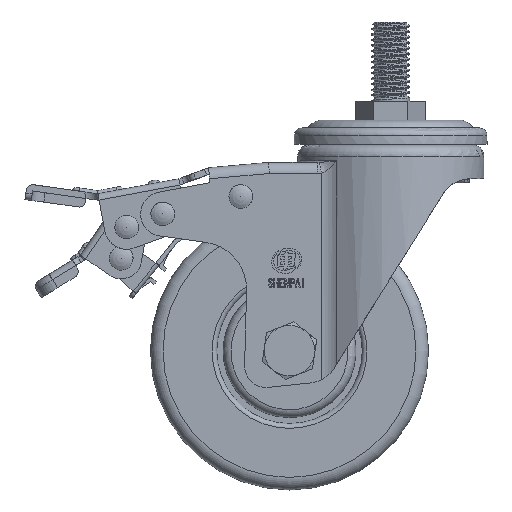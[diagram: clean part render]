
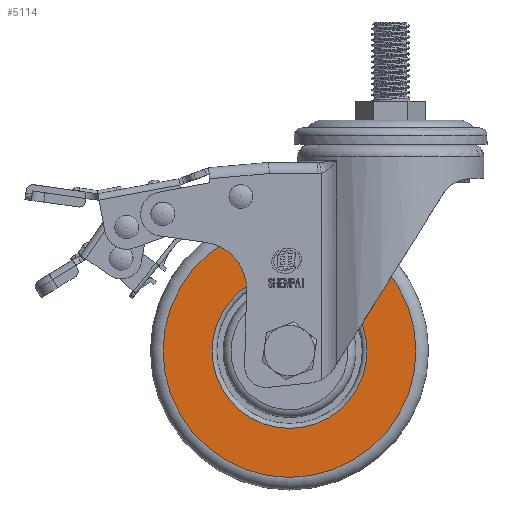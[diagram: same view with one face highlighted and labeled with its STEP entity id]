
A CAD part, front view. The second image highlights one B-rep face of the part: STEP entity #5114.
In plain terms, the highlighted planar face has unit normal (0, -1, -0.003).
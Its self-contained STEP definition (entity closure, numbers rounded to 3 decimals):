
#4064=FACE_BOUND('',#7739,.T.);
#4065=FACE_BOUND('',#7740,.T.);
#5114=ADVANCED_FACE('',(#4064,#4065),#5725,.F.);
#5725=PLANE('',#20013);
#7739=EDGE_LOOP('',(#12622));
#7740=EDGE_LOOP('',(#12623));
#12622=ORIENTED_EDGE('',*,*,#17427,.T.);
#12623=ORIENTED_EDGE('',*,*,#17431,.T.);
#14854=VERTEX_POINT('',#39930);
#14858=VERTEX_POINT('',#39940);
#17427=EDGE_CURVE('',#14854,#14854,#18329,.T.);
#17431=EDGE_CURVE('',#14858,#14858,#18333,.T.);
#18329=CIRCLE('',#19999,24.5);
#18333=CIRCLE('',#20005,40.);
#19999=AXIS2_PLACEMENT_3D('',#39929,#24486,#24487);
#20005=AXIS2_PLACEMENT_3D('',#39939,#24498,#24499);
#20013=AXIS2_PLACEMENT_3D('',#39950,#24514,#24515);
#24486=DIRECTION('',(0.,1.,0.003));
#24487=DIRECTION('',(0.,-0.003,1.));
#24498=DIRECTION('',(0.,-1.,-0.003));
#24499=DIRECTION('',(0.,0.003,-1.));
#24514=DIRECTION('',(0.,1.,0.003));
#24515=DIRECTION('',(0.,-0.003,1.));
#39929=CARTESIAN_POINT('',(-32.,-15.27,-104.088));
#39930=CARTESIAN_POINT('',(-32.,-15.352,-79.588));
#39939=CARTESIAN_POINT('',(-32.,-15.27,-104.088));
#39940=CARTESIAN_POINT('',(-32.,-15.135,-144.087));
#39950=CARTESIAN_POINT('',(-55.,-15.27,-104.088));
